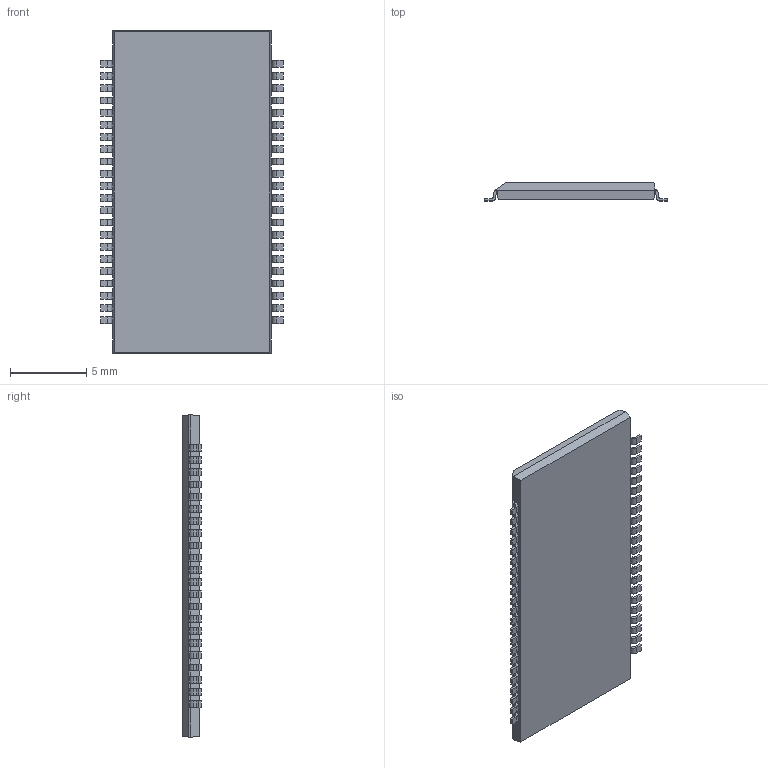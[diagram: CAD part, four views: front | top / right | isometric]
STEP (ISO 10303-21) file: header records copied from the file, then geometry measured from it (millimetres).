
FILE_DESCRIPTION (( 'STEP AP214' ), '1' );
FILE_NAME ('TSOP80P1176X120-44_MS-024.BB.STEP', '2014-12-19T14:14:22', ( 'Tester2' ), ( '' ), 'SwSTEP 2.0', 'SolidWorks 2012', '' );
FILE_SCHEMA (( 'AUTOMOTIVE_DESIGN' ));
Length unit declared in the file: millimetre
Products named in the file (1): TSOP80P1176X120-44_MS-024.BB
Bounding box: 11.96 x 1.2 x 21.15 mm (x, y, z)
Volume: 240 mm3; surface area: 557.9 mm2
Topology: 1 solids, 1 shells, 498 faces, 1481 edges, 986 vertices
Faces by surface type: plane 320, cylinder 178
Entity records: 22080 total; most frequent: CARTESIAN_POINT 2966, ORIENTED_EDGE 2962, DIRECTION 2835, EDGE_CURVE 1481, VECTOR 1125, LINE 1125, VERTEX_POINT 986, AXIS2_PLACEMENT_3D 855
